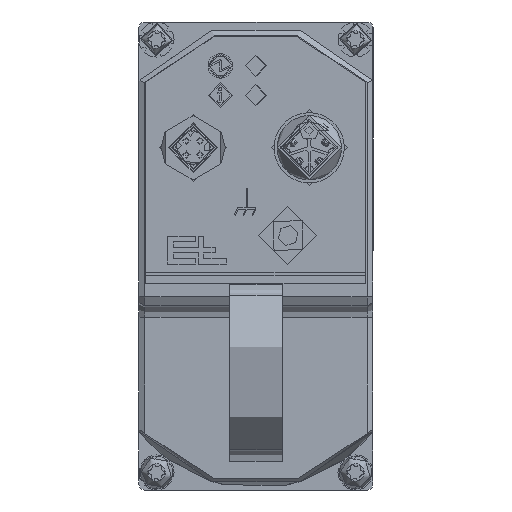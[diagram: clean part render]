
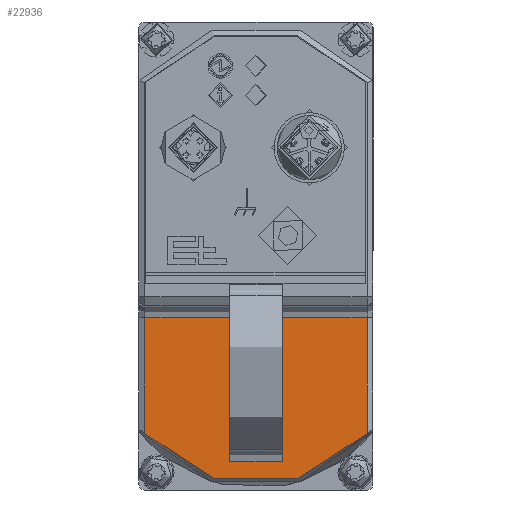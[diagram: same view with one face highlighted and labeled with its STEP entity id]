
A CAD part, left-side view. The second image highlights one B-rep face of the part: STEP entity #22936.
In plain terms, the highlighted planar face has unit normal (-1, 0, 0).
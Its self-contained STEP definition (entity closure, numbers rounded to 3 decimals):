
#197 = VERTEX_POINT ( 'NONE', #41788 ) ;
#2224 = CARTESIAN_POINT ( 'NONE',  ( -23., -4.5, -6.1 ) ) ;
#3755 = CARTESIAN_POINT ( 'NONE',  ( -23., 0., -10.5 ) ) ;
#4202 = CARTESIAN_POINT ( 'NONE',  ( -23., -4.5, -35.1 ) ) ;
#5451 = ORIENTED_EDGE ( 'NONE', *, *, #28744, .F. ) ;
#6304 = VECTOR ( 'NONE', #36668, 1000. ) ;
#6624 = VERTEX_POINT ( 'NONE', #24207 ) ;
#6780 = CARTESIAN_POINT ( 'NONE',  ( -23., -4.5, -10.5 ) ) ;
#6986 = CARTESIAN_POINT ( 'NONE',  ( -23., 0., -10.5 ) ) ;
#7073 = ORIENTED_EDGE ( 'NONE', *, *, #26375, .T. ) ;
#9986 = EDGE_CURVE ( 'NONE', #19921, #6624, #53629, .T. ) ;
#10476 = CARTESIAN_POINT ( 'NONE',  ( -23., -19., -10.5 ) ) ;
#11104 = PLANE ( 'NONE',  #13386 ) ;
#12522 = VECTOR ( 'NONE', #36401, 1000. ) ;
#13386 = AXIS2_PLACEMENT_3D ( 'NONE', #24495, #27854, #33121 ) ;
#13455 = ORIENTED_EDGE ( 'NONE', *, *, #38999, .T. ) ;
#13805 = EDGE_LOOP ( 'NONE', ( #5451, #20642, #36735, #34208, #15699, #13455, #22449, #7073 ) ) ;
#13861 = VECTOR ( 'NONE', #15174, 1000. ) ;
#14675 = DIRECTION ( 'NONE',  ( -1., 0., 0. ) ) ;
#14972 = LINE ( 'NONE', #2224, #12522 ) ;
#15031 = LINE ( 'NONE', #6986, #31589 ) ;
#15174 = DIRECTION ( 'NONE',  ( 0., 0., 1. ) ) ;
#15699 = ORIENTED_EDGE ( 'NONE', *, *, #51333, .T. ) ;
#16055 = CARTESIAN_POINT ( 'NONE',  ( -23., 19., -30.019 ) ) ;
#16261 = LINE ( 'NONE', #3755, #38602 ) ;
#16655 = VECTOR ( 'NONE', #18350, 1000. ) ;
#18350 = DIRECTION ( 'NONE',  ( 0., 1., 0. ) ) ;
#18852 = CARTESIAN_POINT ( 'NONE',  ( -23., 0., -14.2 ) ) ;
#18927 = LINE ( 'NONE', #44841, #23619 ) ;
#19921 = VERTEX_POINT ( 'NONE', #49949 ) ;
#20642 = ORIENTED_EDGE ( 'NONE', *, *, #41680, .T. ) ;
#21855 = VERTEX_POINT ( 'NONE', #28245 ) ;
#22449 = ORIENTED_EDGE ( 'NONE', *, *, #25372, .T. ) ;
#22936 = ADVANCED_FACE ( 'NONE', ( #41746 ), #11104, .T. ) ;
#23584 = CARTESIAN_POINT ( 'NONE',  ( -23., 4.5, -6.1 ) ) ;
#23619 = VECTOR ( 'NONE', #35902, 1000. ) ;
#23903 = VERTEX_POINT ( 'NONE', #10476 ) ;
#24207 = CARTESIAN_POINT ( 'NONE',  ( -23., 4.5, -10.5 ) ) ;
#24495 = CARTESIAN_POINT ( 'NONE',  ( -23., 0., 40. ) ) ;
#24617 = EDGE_CURVE ( 'NONE', #6624, #30284, #16261, .T. ) ;
#25372 = EDGE_CURVE ( 'NONE', #21855, #23903, #18927, .T. ) ;
#25775 = CARTESIAN_POINT ( 'NONE',  ( -23., 19., -10.5 ) ) ;
#26375 = EDGE_CURVE ( 'NONE', #23903, #46289, #15031, .T. ) ;
#27854 = DIRECTION ( 'NONE',  ( -1., 0., 0. ) ) ;
#28245 = CARTESIAN_POINT ( 'NONE',  ( -23., -19., -30.329 ) ) ;
#28631 = LINE ( 'NONE', #16055, #6304 ) ;
#28744 = EDGE_CURVE ( 'NONE', #49658, #46289, #14972, .T. ) ;
#30284 = VERTEX_POINT ( 'NONE', #25775 ) ;
#31361 = AXIS2_PLACEMENT_3D ( 'NONE', #18852, #14675, #31670 ) ;
#31589 = VECTOR ( 'NONE', #32035, 1000. ) ;
#31670 = DIRECTION ( 'NONE',  ( 0., 0., 1. ) ) ;
#32035 = DIRECTION ( 'NONE',  ( 0., 1., 0. ) ) ;
#33121 = DIRECTION ( 'NONE',  ( 0., 0., 1. ) ) ;
#33780 = DIRECTION ( 'NONE',  ( 0., 1., 0. ) ) ;
#34208 = ORIENTED_EDGE ( 'NONE', *, *, #24617, .T. ) ;
#35902 = DIRECTION ( 'NONE',  ( 0., 0., 1. ) ) ;
#36401 = DIRECTION ( 'NONE',  ( 0., 0., 1. ) ) ;
#36668 = DIRECTION ( 'NONE',  ( 0., 0., -1. ) ) ;
#36735 = ORIENTED_EDGE ( 'NONE', *, *, #9986, .T. ) ;
#38602 = VECTOR ( 'NONE', #33780, 1000. ) ;
#38999 = EDGE_CURVE ( 'NONE', #197, #21855, #48281, .T. ) ;
#41680 = EDGE_CURVE ( 'NONE', #49658, #19921, #43726, .T. ) ;
#41746 = FACE_OUTER_BOUND ( 'NONE', #13805, .T. ) ;
#41788 = CARTESIAN_POINT ( 'NONE',  ( -23., 19., -30.329 ) ) ;
#43726 = LINE ( 'NONE', #51765, #16655 ) ;
#44841 = CARTESIAN_POINT ( 'NONE',  ( -23., -19., -10.5 ) ) ;
#46289 = VERTEX_POINT ( 'NONE', #6780 ) ;
#48281 = CIRCLE ( 'NONE', #31361, 24.923 ) ;
#49658 = VERTEX_POINT ( 'NONE', #4202 ) ;
#49949 = CARTESIAN_POINT ( 'NONE',  ( -23., 4.5, -35.1 ) ) ;
#51333 = EDGE_CURVE ( 'NONE', #30284, #197, #28631, .T. ) ;
#51765 = CARTESIAN_POINT ( 'NONE',  ( -23., 4.5, -35.1 ) ) ;
#53629 = LINE ( 'NONE', #23584, #13861 ) ;
